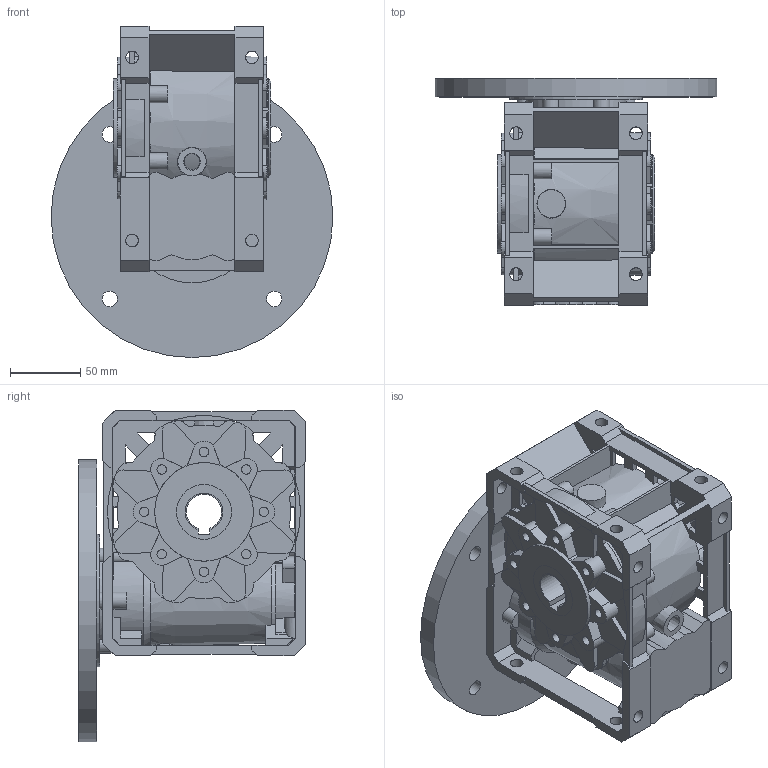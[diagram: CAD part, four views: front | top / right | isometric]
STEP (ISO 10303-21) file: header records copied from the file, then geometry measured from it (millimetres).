
FILE_DESCRIPTION (( 'STEP AP203' ), '1' );
FILE_NAME ('MU 63 PAM 90 B5.STEP', '2016-03-10T08:49:54', ( 'm.piscopiello' ), ( '' ), 'SwSTEP 2.0', 'SolidWorks 2015', '' );
FILE_SCHEMA (( 'CONFIG_CONTROL_DESIGN' ));
Length unit declared in the file: millimetre
Products named in the file (1): MU 63 PAM 90 B5
Bounding box: 200 x 161 x 235 mm (x, y, z)
Volume: 1756584.5 mm3; surface area: 280677.9 mm2
Topology: 1 solids, 7 shells, 842 faces, 2405 edges, 1543 vertices
Faces by surface type: plane 491, cylinder 206, bspline 71, cone 53, torus 20, sphere 1
Full cylindrical faces by diameter (mm): 6.647 x8, 7.459 x7, 9 x14, 11 x4, 20 x1, 40 x1, 55 x1, 65 x1, 70 x2, 94 x1, 128 x1, 130 x1, 141 x1, 189 x1, 200 x1
Entity records: 32034 total; most frequent: CARTESIAN_POINT 11129, ORIENTED_EDGE 4550, DIRECTION 4007, EDGE_CURVE 2275, VERTEX_POINT 1515, AXIS2_PLACEMENT_3D 1385, VECTOR 1237, LINE 1237
